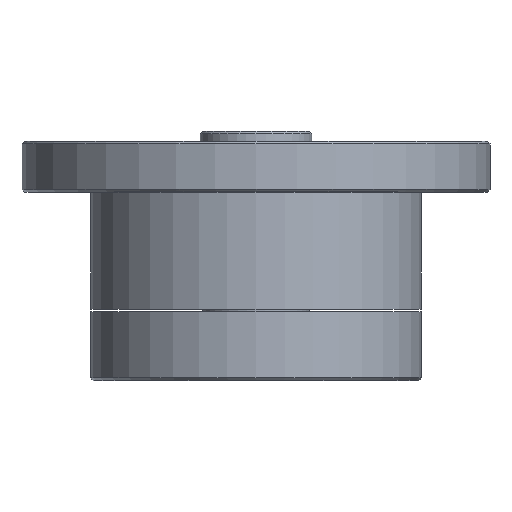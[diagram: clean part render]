
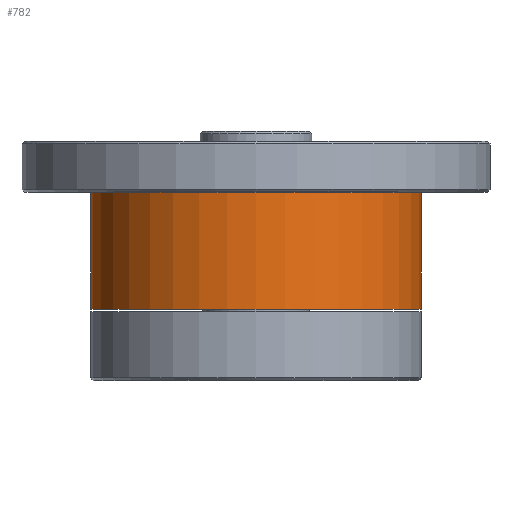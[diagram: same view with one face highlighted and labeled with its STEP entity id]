
A CAD part, top view. The second image highlights one B-rep face of the part: STEP entity #782.
In plain terms, the highlighted cylindrical face has radius 32.5 mm (diameter 65 mm), a partial arc.
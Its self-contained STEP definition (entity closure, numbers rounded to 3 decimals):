
#31 = ORIENTED_EDGE ( 'NONE', *, *, #3940, .F. ) ;
#54 = CARTESIAN_POINT ( 'NONE',  ( 32.5, -10., 0. ) ) ;
#158 = ORIENTED_EDGE ( 'NONE', *, *, #3520, .T. ) ;
#576 = DIRECTION ( 'NONE',  ( 0., -1., 0. ) ) ;
#615 = CARTESIAN_POINT ( 'NONE',  ( 0., -10., 0. ) ) ;
#700 = CARTESIAN_POINT ( 'NONE',  ( -32.5, -33., 0. ) ) ;
#759 = AXIS2_PLACEMENT_3D ( 'NONE', #4761, #763, #2767 ) ;
#763 = DIRECTION ( 'NONE',  ( 0., -1., 0. ) ) ;
#782 = ADVANCED_FACE ( 'NONE', ( #1531 ), #3943, .T. ) ;
#916 = DIRECTION ( 'NONE',  ( 0., -1., 0. ) ) ;
#1363 = VECTOR ( 'NONE', #916, 1000. ) ;
#1514 = AXIS2_PLACEMENT_3D ( 'NONE', #4596, #576, #1718 ) ;
#1531 = FACE_OUTER_BOUND ( 'NONE', #3028, .T. ) ;
#1654 = EDGE_CURVE ( 'NONE', #3669, #2158, #2437, .T. ) ;
#1692 = CARTESIAN_POINT ( 'NONE',  ( -32.5, -47., 0. ) ) ;
#1718 = DIRECTION ( 'NONE',  ( 1., 0., 0. ) ) ;
#2083 = LINE ( 'NONE', #1692, #5036 ) ;
#2158 = VERTEX_POINT ( 'NONE', #700 ) ;
#2437 = CIRCLE ( 'NONE', #1514, 32.5 ) ;
#2474 = CARTESIAN_POINT ( 'NONE',  ( 32.5, -47., 0. ) ) ;
#2565 = EDGE_CURVE ( 'NONE', #3899, #5119, #4804, .T. ) ;
#2767 = DIRECTION ( 'NONE',  ( 1., 0., 0. ) ) ;
#2978 = CARTESIAN_POINT ( 'NONE',  ( 32.5, -33., 0. ) ) ;
#3010 = DIRECTION ( 'NONE',  ( 1., 0., 0. ) ) ;
#3028 = EDGE_LOOP ( 'NONE', ( #3951, #158, #3106, #31 ) ) ;
#3106 = ORIENTED_EDGE ( 'NONE', *, *, #1654, .F. ) ;
#3379 = AXIS2_PLACEMENT_3D ( 'NONE', #615, #3801, #3010 ) ;
#3520 = EDGE_CURVE ( 'NONE', #5119, #2158, #2083, .T. ) ;
#3669 = VERTEX_POINT ( 'NONE', #2978 ) ;
#3801 = DIRECTION ( 'NONE',  ( 0., -1., 0. ) ) ;
#3829 = CARTESIAN_POINT ( 'NONE',  ( -32.5, -10., 0. ) ) ;
#3899 = VERTEX_POINT ( 'NONE', #54 ) ;
#3940 = EDGE_CURVE ( 'NONE', #3899, #3669, #4893, .T. ) ;
#3943 = CYLINDRICAL_SURFACE ( 'NONE', #759, 32.5 ) ;
#3951 = ORIENTED_EDGE ( 'NONE', *, *, #2565, .T. ) ;
#4596 = CARTESIAN_POINT ( 'NONE',  ( 0., -33., 0. ) ) ;
#4761 = CARTESIAN_POINT ( 'NONE',  ( 0., -47., 0. ) ) ;
#4804 = CIRCLE ( 'NONE', #3379, 32.5 ) ;
#4893 = LINE ( 'NONE', #2474, #1363 ) ;
#4900 = DIRECTION ( 'NONE',  ( 0., -1., 0. ) ) ;
#5036 = VECTOR ( 'NONE', #4900, 1000. ) ;
#5119 = VERTEX_POINT ( 'NONE', #3829 ) ;
